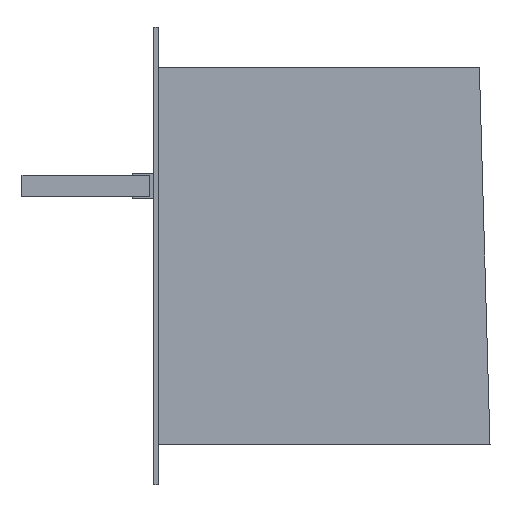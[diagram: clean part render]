
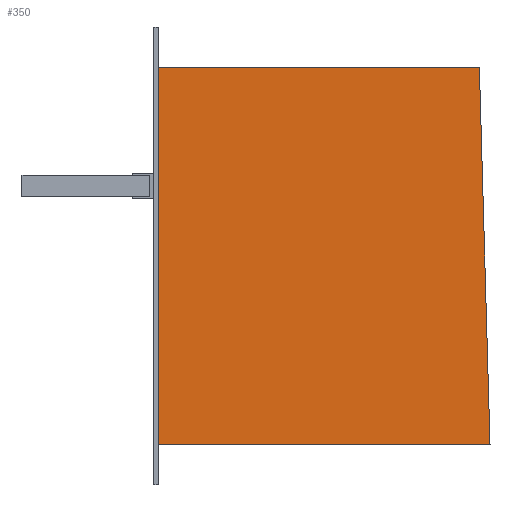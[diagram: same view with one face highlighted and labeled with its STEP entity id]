
A CAD part, left-side view. The second image highlights one B-rep face of the part: STEP entity #350.
In plain terms, the highlighted planar face has unit normal (-1, 0, 0).
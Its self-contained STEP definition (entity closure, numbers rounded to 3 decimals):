
#32 = EDGE_LOOP ( 'NONE', ( #1449, #840, #78, #494 ) ) ;
#62 = CARTESIAN_POINT ( 'NONE',  ( -1341., 0., -88.5 ) ) ;
#64 = FACE_OUTER_BOUND ( 'NONE', #32, .T. ) ;
#74 = VECTOR ( 'NONE', #262, 1000. ) ;
#78 = ORIENTED_EDGE ( 'NONE', *, *, #1788, .T. ) ;
#102 = LINE ( 'NONE', #1889, #1108 ) ;
#170 = EDGE_CURVE ( 'NONE', #1866, #1146, #682, .T. ) ;
#175 = AXIS2_PLACEMENT_3D ( 'NONE', #1253, #650, #1696 ) ;
#262 = DIRECTION ( 'NONE',  ( 0., 0., -1. ) ) ;
#350 = ADVANCED_FACE ( 'NONE', ( #64 ), #1100, .F. ) ;
#494 = ORIENTED_EDGE ( 'NONE', *, *, #170, .T. ) ;
#530 = DIRECTION ( 'NONE',  ( 0., 1., 0. ) ) ;
#612 = VECTOR ( 'NONE', #1785, 1000. ) ;
#644 = CARTESIAN_POINT ( 'NONE',  ( -1341., 0., -88.5 ) ) ;
#650 = DIRECTION ( 'NONE',  ( 1., 0., 0. ) ) ;
#656 = DIRECTION ( 'NONE',  ( 0., -1., 0. ) ) ;
#682 = LINE ( 'NONE', #1142, #74 ) ;
#840 = ORIENTED_EDGE ( 'NONE', *, *, #1330, .T. ) ;
#956 = LINE ( 'NONE', #62, #1745 ) ;
#969 = CARTESIAN_POINT ( 'NONE',  ( -1341., -151., 88.5 ) ) ;
#1100 = PLANE ( 'NONE',  #175 ) ;
#1108 = VECTOR ( 'NONE', #530, 1000. ) ;
#1123 = VERTEX_POINT ( 'NONE', #1777 ) ;
#1142 = CARTESIAN_POINT ( 'NONE',  ( -1341., 0., 88.5 ) ) ;
#1146 = VERTEX_POINT ( 'NONE', #644 ) ;
#1253 = CARTESIAN_POINT ( 'NONE',  ( -1341., 2., 107.5 ) ) ;
#1320 = LINE ( 'NONE', #969, #612 ) ;
#1330 = EDGE_CURVE ( 'NONE', #1930, #1123, #1320, .T. ) ;
#1353 = CARTESIAN_POINT ( 'NONE',  ( -1341., 0., 88.5 ) ) ;
#1403 = CARTESIAN_POINT ( 'NONE',  ( -1341., -156., -88.5 ) ) ;
#1449 = ORIENTED_EDGE ( 'NONE', *, *, #1931, .T. ) ;
#1696 = DIRECTION ( 'NONE',  ( 0., 0., -1. ) ) ;
#1745 = VECTOR ( 'NONE', #656, 1000. ) ;
#1777 = CARTESIAN_POINT ( 'NONE',  ( -1341., -151., 88.5 ) ) ;
#1785 = DIRECTION ( 'NONE',  ( 0., 0.028, 1. ) ) ;
#1788 = EDGE_CURVE ( 'NONE', #1123, #1866, #102, .T. ) ;
#1866 = VERTEX_POINT ( 'NONE', #1353 ) ;
#1889 = CARTESIAN_POINT ( 'NONE',  ( -1341., 0., 88.5 ) ) ;
#1930 = VERTEX_POINT ( 'NONE', #1403 ) ;
#1931 = EDGE_CURVE ( 'NONE', #1146, #1930, #956, .T. ) ;
